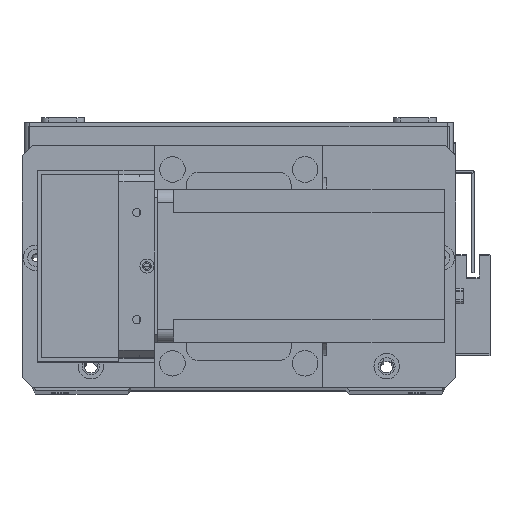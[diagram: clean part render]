
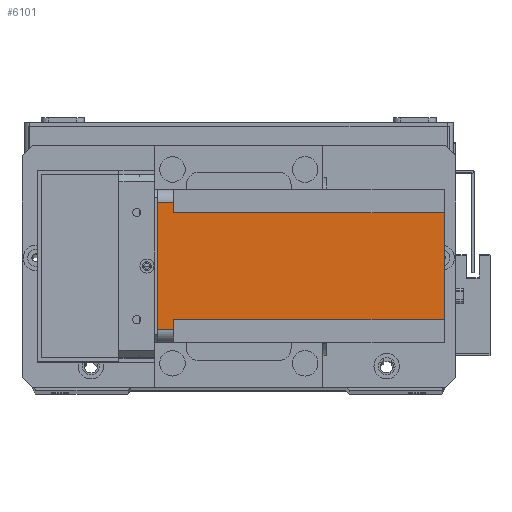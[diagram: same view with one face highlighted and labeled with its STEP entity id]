
A CAD part, top view. The second image highlights one B-rep face of the part: STEP entity #6101.
In plain terms, the highlighted planar face has unit normal (0, 0, 1) as drawn and (-1, 0, 0) by its records, which use the part's own axes.
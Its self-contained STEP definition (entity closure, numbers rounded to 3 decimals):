
#112 = LINE ( 'NONE', #2780, #23650 ) ;
#315 = LINE ( 'NONE', #20459, #31119 ) ;
#736 = CARTESIAN_POINT ( 'NONE',  ( 0., 51., -112.5 ) ) ;
#941 = EDGE_LOOP ( 'NONE', ( #4749, #3668, #22365, #14208, #11495, #16910, #3265, #1630 ) ) ;
#996 = VERTEX_POINT ( 'NONE', #24578 ) ;
#1201 = CARTESIAN_POINT ( 'NONE',  ( 0., 55., -6.5 ) ) ;
#1630 = ORIENTED_EDGE ( 'NONE', *, *, #2762, .F. ) ;
#2013 = CARTESIAN_POINT ( 'NONE',  ( 0., 0., -112.5 ) ) ;
#2677 = EDGE_CURVE ( 'NONE', #11165, #6907, #14756, .T. ) ;
#2762 = EDGE_CURVE ( 'NONE', #7093, #15779, #315, .T. ) ;
#2780 = CARTESIAN_POINT ( 'NONE',  ( 0., 5., -112.5 ) ) ;
#3145 = DIRECTION ( 'NONE',  ( 0., 0., 1. ) ) ;
#3215 = VERTEX_POINT ( 'NONE', #1201 ) ;
#3265 = ORIENTED_EDGE ( 'NONE', *, *, #15325, .T. ) ;
#3668 = ORIENTED_EDGE ( 'NONE', *, *, #24430, .T. ) ;
#4231 = CARTESIAN_POINT ( 'NONE',  ( 0., 0., -6.5 ) ) ;
#4749 = ORIENTED_EDGE ( 'NONE', *, *, #18275, .F. ) ;
#5524 = EDGE_CURVE ( 'NONE', #31065, #3215, #17579, .T. ) ;
#5550 = CARTESIAN_POINT ( 'NONE',  ( 0., 0., -112.5 ) ) ;
#6101 = ADVANCED_FACE ( 'NONE', ( #20615 ), #29809, .T. ) ;
#6902 = DIRECTION ( 'NONE',  ( 0., -1., 0. ) ) ;
#6907 = VERTEX_POINT ( 'NONE', #11741 ) ;
#7093 = VERTEX_POINT ( 'NONE', #16443 ) ;
#7774 = DIRECTION ( 'NONE',  ( 0., 0., 1. ) ) ;
#7992 = DIRECTION ( 'NONE',  ( 0., -1., 0. ) ) ;
#8066 = LINE ( 'NONE', #2013, #13817 ) ;
#9986 = CARTESIAN_POINT ( 'NONE',  ( 0., 5., -6.5 ) ) ;
#10269 = DIRECTION ( 'NONE',  ( 0., 1., 0. ) ) ;
#11165 = VERTEX_POINT ( 'NONE', #24001 ) ;
#11463 = DIRECTION ( 'NONE',  ( 0., -1., 0. ) ) ;
#11495 = ORIENTED_EDGE ( 'NONE', *, *, #19787, .F. ) ;
#11728 = DIRECTION ( 'NONE',  ( 0., 0., -1. ) ) ;
#11741 = CARTESIAN_POINT ( 'NONE',  ( 0., 51., -6.5 ) ) ;
#12510 = VERTEX_POINT ( 'NONE', #9986 ) ;
#12665 = LINE ( 'NONE', #25991, #31304 ) ;
#13817 = VECTOR ( 'NONE', #6902, 1000. ) ;
#13951 = DIRECTION ( 'NONE',  ( 0., 1., 0. ) ) ;
#14208 = ORIENTED_EDGE ( 'NONE', *, *, #5524, .T. ) ;
#14541 = CARTESIAN_POINT ( 'NONE',  ( 0., 55., 0. ) ) ;
#14756 = LINE ( 'NONE', #736, #26909 ) ;
#15325 = EDGE_CURVE ( 'NONE', #11165, #15779, #8066, .T. ) ;
#15641 = CARTESIAN_POINT ( 'NONE',  ( 0., 9., -112.5 ) ) ;
#15779 = VERTEX_POINT ( 'NONE', #15641 ) ;
#16443 = CARTESIAN_POINT ( 'NONE',  ( 0., 9., -6.5 ) ) ;
#16910 = ORIENTED_EDGE ( 'NONE', *, *, #2677, .F. ) ;
#17579 = LINE ( 'NONE', #28685, #23291 ) ;
#18042 = LINE ( 'NONE', #4231, #23766 ) ;
#18275 = EDGE_CURVE ( 'NONE', #12510, #7093, #18042, .T. ) ;
#19787 = EDGE_CURVE ( 'NONE', #6907, #3215, #27853, .T. ) ;
#20459 = CARTESIAN_POINT ( 'NONE',  ( 0., 9., -112.5 ) ) ;
#20615 = FACE_OUTER_BOUND ( 'NONE', #941, .T. ) ;
#22365 = ORIENTED_EDGE ( 'NONE', *, *, #24107, .F. ) ;
#22539 = DIRECTION ( 'NONE',  ( -1., 0., 0. ) ) ;
#23291 = VECTOR ( 'NONE', #11728, 1000. ) ;
#23650 = VECTOR ( 'NONE', #7774, 1000. ) ;
#23766 = VECTOR ( 'NONE', #13951, 1000. ) ;
#23790 = AXIS2_PLACEMENT_3D ( 'NONE', #5550, #22539, #7992 ) ;
#24001 = CARTESIAN_POINT ( 'NONE',  ( 0., 51., -112.5 ) ) ;
#24107 = EDGE_CURVE ( 'NONE', #31065, #996, #12665, .T. ) ;
#24430 = EDGE_CURVE ( 'NONE', #12510, #996, #112, .T. ) ;
#24578 = CARTESIAN_POINT ( 'NONE',  ( 0., 5., 0. ) ) ;
#25392 = DIRECTION ( 'NONE',  ( 0., 0., -1. ) ) ;
#25991 = CARTESIAN_POINT ( 'NONE',  ( 0., 0., 0. ) ) ;
#26909 = VECTOR ( 'NONE', #3145, 1000. ) ;
#27080 = VECTOR ( 'NONE', #10269, 1000. ) ;
#27853 = LINE ( 'NONE', #29728, #27080 ) ;
#28685 = CARTESIAN_POINT ( 'NONE',  ( 0., 55., -112.5 ) ) ;
#29728 = CARTESIAN_POINT ( 'NONE',  ( 0., 60., -6.5 ) ) ;
#29809 = PLANE ( 'NONE',  #23790 ) ;
#31065 = VERTEX_POINT ( 'NONE', #14541 ) ;
#31119 = VECTOR ( 'NONE', #25392, 1000. ) ;
#31304 = VECTOR ( 'NONE', #11463, 1000. ) ;
